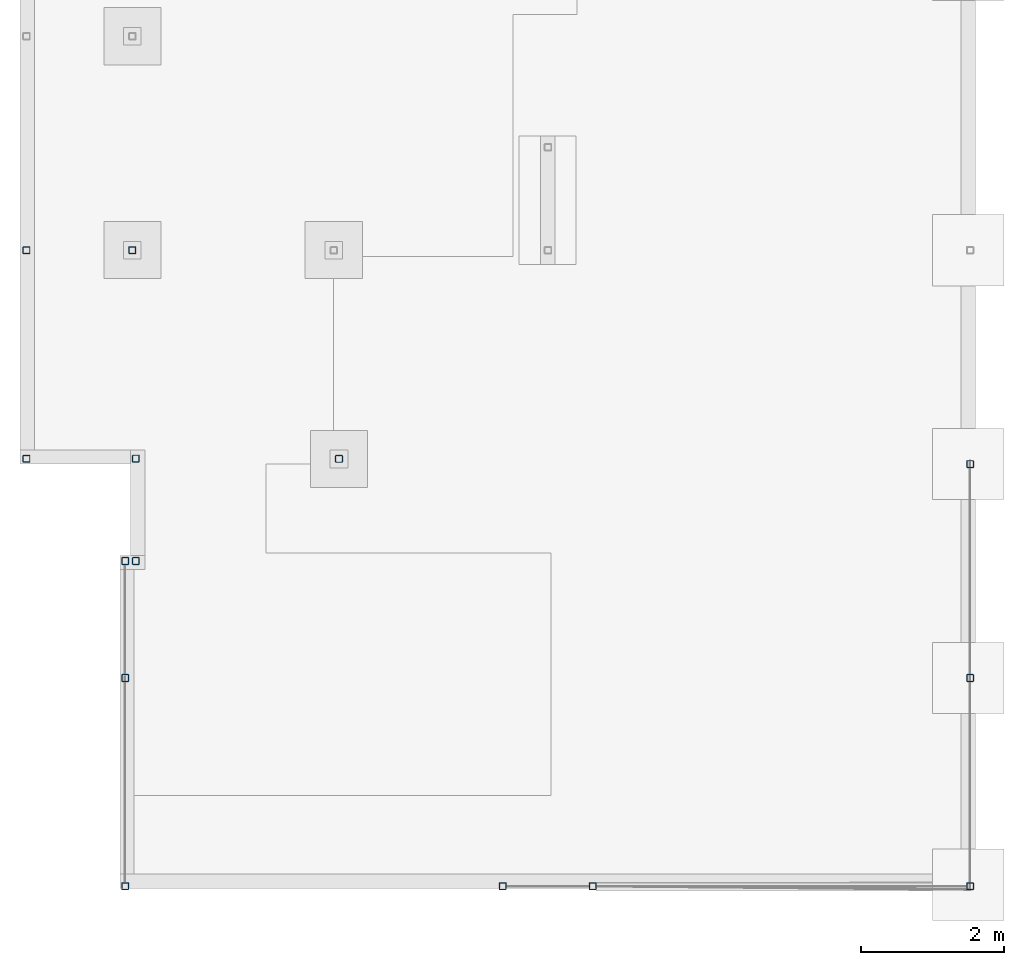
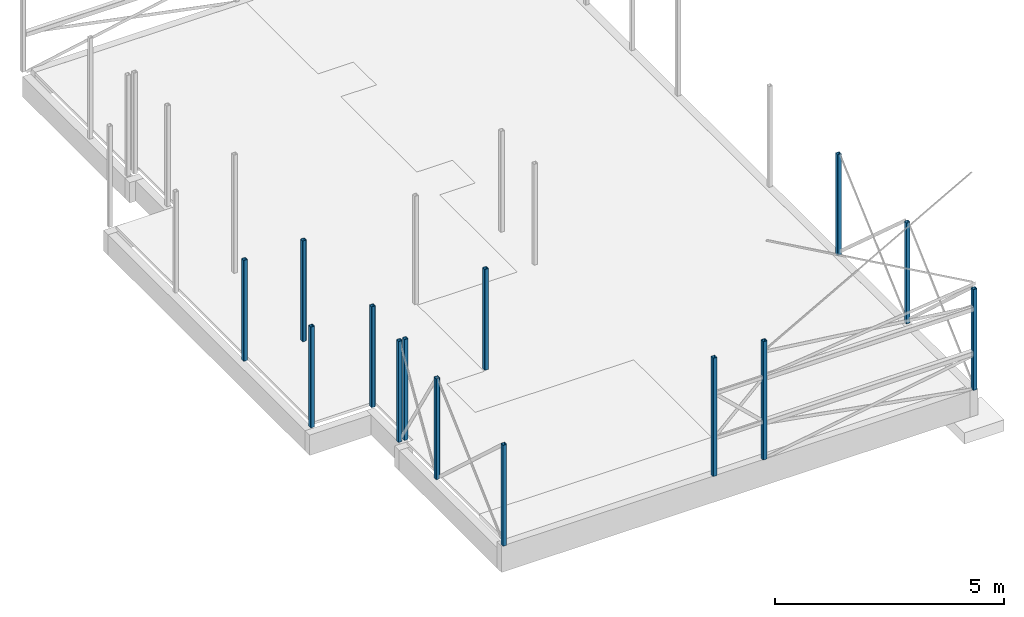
# One storey, part 1 of 5: 14 columns.
"""IFC2X3 building model written with IfcOpenShell, lengths in millimetres."""

from ifc_helpers import new_model, entity, si_unit, converted_unit, derived_unit, direction, frame, frame_2d, origin, place, context, subcontext, project, spatial, polyline, circle_curve, parameter, trimmed, segment, composite_curve, outline, extrude, source, transform, mapped, material, type_object, type_shapes, element, save


model = new_model("IFC2X3")

# Units and contexts
model_context = context("Model", 3, precision=0.01, world=origin(), true_north=direction((6.12303176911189e-17, 1.0)))
body_context = subcontext(model_context, "Body", "Model", "MODEL_VIEW")
ifc_project = project(units=[si_unit("LENGTHUNIT", "METRE", prefix="MILLI"), si_unit("AREAUNIT", "SQUARE_METRE"), si_unit("VOLUMEUNIT", "CUBIC_METRE"), converted_unit("PLANEANGLEUNIT", "DEGREE", entity("IfcRatioMeasure", 0.0174532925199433), si_unit("PLANEANGLEUNIT", "RADIAN"), dimensions=[0, 0, 0, 0, 0, 0, 0]), si_unit("MASSUNIT", "GRAM", prefix="KILO"), derived_unit("MASSDENSITYUNIT", [(si_unit("MASSUNIT", "GRAM", prefix="KILO"), 1), (si_unit("LENGTHUNIT", "METRE"), -3)]), si_unit("TIMEUNIT", "SECOND"), si_unit("FREQUENCYUNIT", "HERTZ"), si_unit("THERMODYNAMICTEMPERATUREUNIT", "DEGREE_CELSIUS"), derived_unit("THERMALTRANSMITTANCEUNIT", [(si_unit("MASSUNIT", "GRAM", prefix="KILO"), 1), (si_unit("THERMODYNAMICTEMPERATUREUNIT", "KELVIN"), -1), (si_unit("TIMEUNIT", "SECOND"), -3)]), derived_unit("VOLUMETRICFLOWRATEUNIT", [(si_unit("LENGTHUNIT", "METRE"), 3), (si_unit("TIMEUNIT", "SECOND"), -1)]), si_unit("ELECTRICCURRENTUNIT", "AMPERE"), si_unit("ELECTRICVOLTAGEUNIT", "VOLT"), si_unit("POWERUNIT", "WATT"), si_unit("FORCEUNIT", "NEWTON", prefix="KILO"), si_unit("ILLUMINANCEUNIT", "LUX"), si_unit("LUMINOUSFLUXUNIT", "LUMEN"), si_unit("LUMINOUSINTENSITYUNIT", "CANDELA"), derived_unit("USERDEFINED", [(si_unit("MASSUNIT", "GRAM", prefix="KILO"), -1), (si_unit("LENGTHUNIT", "METRE"), -2), (si_unit("TIMEUNIT", "SECOND"), 3), (si_unit("LUMINOUSFLUXUNIT", "LUMEN"), 1)]), derived_unit("LINEARVELOCITYUNIT", [(si_unit("LENGTHUNIT", "METRE"), 1), (si_unit("TIMEUNIT", "SECOND"), -1)]), si_unit("PRESSUREUNIT", "PASCAL"), derived_unit("USERDEFINED", [(si_unit("LENGTHUNIT", "METRE"), -2), (si_unit("MASSUNIT", "GRAM", prefix="KILO"), 1), (si_unit("TIMEUNIT", "SECOND"), -2)])], contexts=[model_context])

# Site, building, storey
site_placement = place(None, frame((0.0, 0.0, 101000.0)))
site = spatial("IfcSite", under=ifc_project, at=site_placement, Name="Default", CompositionType="ELEMENT")
building_placement = place(site_placement, origin())
building = spatial("IfcBuilding", under=site, at=building_placement, CompositionType="ELEMENT")
storey_placement = place(building_placement, origin())
storey = spatial("IfcBuildingStorey", under=building, at=storey_placement, Name="01", CompositionType="ELEMENT", Elevation=8.9295595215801e-10)

# Columns
ifc_material = material(Name="S355")
column_type_1 = type_object("IfcColumnType", Name="HUP 100x100x6.3", PredefinedType="COLUMN", material=ifc_material)
shared_shape_1 = source(origin(), body_context, "Body", "SweptSolid", [
    extrude(outline(composite_curve([segment(polyline([(-37.4000000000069, -50.0), (37.3999999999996, -50.0)]), True, "CONTINUOUS"), segment(trimmed(circle_curve(frame_2d((37.3999999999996, -37.3999999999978), x_axis=(-1.0, 0.0)), 12.6000000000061), [parameter(90.0000000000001)], [parameter(180.0)], True, "PARAMETER"), True, "CONTINUOUS"), segment(polyline([(50.0, -37.4000000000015), (50.0, 37.3999999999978)]), True, "CONTINUOUS"), segment(trimmed(circle_curve(frame_2d((37.4000000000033, 37.3999999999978), x_axis=(-1.0, 0.0)), 12.6000000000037), [parameter(180.0)], [parameter(270.0)], True, "PARAMETER"), True, "CONTINUOUS"), segment(polyline([(37.4000000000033, 50.0), (-37.4000000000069, 50.0)]), True, "CONTINUOUS"), segment(trimmed(circle_curve(frame_2d((-37.4000000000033, 37.4000000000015), x_axis=(-1.0, 0.0)), 12.6000000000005), [parameter(270.0)], [parameter(360.0)], True, "PARAMETER"), True, "CONTINUOUS"), segment(polyline([(-50.0, 37.3999999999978), (-50.0, -37.4000000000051)]), True, "CONTINUOUS"), segment(trimmed(circle_curve(frame_2d((-37.4000000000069, -37.4000000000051), x_axis=(-1.0, 0.0)), 12.5999999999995), [parameter(360.0)], [parameter(89.9999999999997)], True, "PARAMETER"), True, "CONTINUOUS")], self_intersect=False), holes=[composite_curve([segment(trimmed(circle_curve(frame_2d((-37.4000000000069, -37.4000000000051), x_axis=(-1.0, 0.0)), 6.2999999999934), [parameter(0.0)], [parameter(90.0)], True, "PARAMETER"), False, "CONTINUOUS"), segment(polyline([(-43.7000000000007, -37.4000000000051), (-43.7000000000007, 37.4000000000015)]), True, "CONTINUOUS"), segment(trimmed(circle_curve(frame_2d((-37.4000000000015, 37.4000000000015), x_axis=(-1.0, 0.0)), 6.29999999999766), [parameter(270.0)], [parameter(360.0)], True, "PARAMETER"), False, "CONTINUOUS"), segment(polyline([(-37.4000000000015, 43.6999999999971), (37.3999999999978, 43.6999999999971)]), True, "CONTINUOUS"), segment(trimmed(circle_curve(frame_2d((37.3999999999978, 37.3999999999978), x_axis=(-1.0, 0.0)), 6.30000000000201), [parameter(180.0)], [parameter(270.0)], True, "PARAMETER"), False, "CONTINUOUS"), segment(polyline([(43.7000000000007, 37.3999999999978), (43.7000000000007, -37.4000000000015)]), True, "CONTINUOUS"), segment(trimmed(circle_curve(frame_2d((37.3999999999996, -37.3999999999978), x_axis=(-1.0, 0.0)), 6.30000000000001), [parameter(90.0000000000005)], [parameter(180.0)], True, "PARAMETER"), False, "CONTINUOUS"), segment(polyline([(37.3999999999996, -43.7000000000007), (-37.4000000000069, -43.7000000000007)]), True, "CONTINUOUS")], self_intersect=False)]), frame((11261.2644969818, 23497.9507529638, 0.0), z_axis=(0.0, 0.0, 1.0), x_axis=(-1.0, 0.0, 0.0)), (0.0, 0.0, 1.0), 2684.99999999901),
])
type_shapes(column_type_1, [shared_shape_1])
column_1_placement = place(storey_placement, origin())
element("IfcColumn", 1, at=column_1_placement, inside=storey, type_object=column_type_1, material=ifc_material, Name="Søyle HUP:HUP 100x100x6.3", ObjectType="HUP 100x100x6.3", context=body_context, shape_type="MappedRepresentation", body=[
    mapped(shared_shape_1, transform((0.0, 0.0, 0.0), scale=1.0)),
])
column_type_2 = type_object("IfcColumnType", Name="HUP 100x100x6.3", PredefinedType="COLUMN", material=ifc_material)
shared_shape_2 = source(origin(), body_context, "Body", "SweptSolid", [
    extrude(outline(composite_curve([segment(polyline([(-37.4000000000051, -50.0), (37.4000000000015, -50.0)]), True, "CONTINUOUS"), segment(trimmed(circle_curve(frame_2d((37.4000000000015, -37.3999999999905), x_axis=(-1.0, 0.0)), 12.6000000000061), [parameter(90.0000000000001)], [parameter(180.0)], True, "PARAMETER"), True, "CONTINUOUS"), segment(polyline([(50.0, -37.3999999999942), (50.0, 37.4000000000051)]), True, "CONTINUOUS"), segment(trimmed(circle_curve(frame_2d((37.4000000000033, 37.4000000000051), x_axis=(-1.0, 0.0)), 12.6000000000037), [parameter(180.0)], [parameter(270.0)], True, "PARAMETER"), True, "CONTINUOUS"), segment(polyline([(37.4000000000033, 50.0), (-37.4000000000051, 50.0)]), True, "CONTINUOUS"), segment(trimmed(circle_curve(frame_2d((-37.4000000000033, 37.4000000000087), x_axis=(-1.0, 0.0)), 12.6000000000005), [parameter(270.0)], [parameter(360.0)], True, "PARAMETER"), True, "CONTINUOUS"), segment(polyline([(-50.0, 37.4000000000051), (-50.0, -37.3999999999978)]), True, "CONTINUOUS"), segment(trimmed(circle_curve(frame_2d((-37.4000000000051, -37.3999999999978), x_axis=(-1.0, 0.0)), 12.5999999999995), [parameter(360.0)], [parameter(89.9999999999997)], True, "PARAMETER"), True, "CONTINUOUS")], self_intersect=False), holes=[composite_curve([segment(trimmed(circle_curve(frame_2d((-37.4000000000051, -37.3999999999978), x_axis=(-1.0, 0.0)), 6.2999999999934), [parameter(0.0)], [parameter(90.0)], True, "PARAMETER"), False, "CONTINUOUS"), segment(polyline([(-43.7000000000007, -37.3999999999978), (-43.7000000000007, 37.4000000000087)]), True, "CONTINUOUS"), segment(trimmed(circle_curve(frame_2d((-37.4000000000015, 37.4000000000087), x_axis=(-1.0, 0.0)), 6.29999999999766), [parameter(270.0)], [parameter(360.0)], True, "PARAMETER"), False, "CONTINUOUS"), segment(polyline([(-37.4000000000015, 43.7000000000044), (37.3999999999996, 43.7000000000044)]), True, "CONTINUOUS"), segment(trimmed(circle_curve(frame_2d((37.3999999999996, 37.4000000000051), x_axis=(-1.0, 0.0)), 6.30000000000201), [parameter(180.0)], [parameter(270.0)], True, "PARAMETER"), False, "CONTINUOUS"), segment(polyline([(43.7000000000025, 37.4000000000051), (43.7000000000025, -37.3999999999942)]), True, "CONTINUOUS"), segment(trimmed(circle_curve(frame_2d((37.4000000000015, -37.3999999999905), x_axis=(-1.0, 0.0)), 6.30000000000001), [parameter(90.0000000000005)], [parameter(180.0)], True, "PARAMETER"), False, "CONTINUOUS"), segment(polyline([(37.4000000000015, -43.6999999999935), (-37.4000000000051, -43.6999999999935)]), True, "CONTINUOUS")], self_intersect=False)]), frame((11261.2644969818, 26417.9507529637, 0.0), z_axis=(0.0, 0.0, 1.0), x_axis=(-1.0, 0.0, 0.0)), (0.0, 0.0, 1.0), 2684.99999999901),
])
type_shapes(column_type_2, [shared_shape_2])
column_2_placement = place(storey_placement, origin())
element("IfcColumn", 2, at=column_2_placement, inside=storey, type_object=column_type_2, material=ifc_material, Name="Søyle HUP:HUP 100x100x6.3", ObjectType="HUP 100x100x6.3", context=body_context, shape_type="MappedRepresentation", body=[
    mapped(shared_shape_2, transform((0.0, 0.0, 0.0), scale=1.0)),
])
column_type_3 = type_object("IfcColumnType", Name="HUP 100x100x6.3", PredefinedType="COLUMN", material=ifc_material)
shared_shape_3 = source(origin(), body_context, "Body", "SweptSolid", [
    extrude(outline(composite_curve([segment(polyline([(-37.4000000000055, -50.0), (37.4000000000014, -50.0)]), True, "CONTINUOUS"), segment(trimmed(circle_curve(frame_2d((37.4000000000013, -37.3999999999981), x_axis=(-1.0, 0.0)), 12.6000000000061), [parameter(90.0000000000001)], [parameter(180.0)], True, "PARAMETER"), True, "CONTINUOUS"), segment(polyline([(50.0, -37.3999999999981), (50.0, 37.4000000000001)]), True, "CONTINUOUS"), segment(trimmed(circle_curve(frame_2d((37.4000000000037, 37.4000000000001), x_axis=(-1.0, 0.0)), 12.6000000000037), [parameter(180.0)], [parameter(270.0)], True, "PARAMETER"), True, "CONTINUOUS"), segment(polyline([(37.4000000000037, 50.0), (-37.4000000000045, 50.0)]), True, "CONTINUOUS"), segment(trimmed(circle_curve(frame_2d((-37.4000000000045, 37.4000000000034), x_axis=(-1.0, 0.0)), 12.6000000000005), [parameter(270.0)], [parameter(360.0)], True, "PARAMETER"), True, "CONTINUOUS"), segment(polyline([(-50.0, 37.4000000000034), (-50.0, -37.4000000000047)]), True, "CONTINUOUS"), segment(trimmed(circle_curve(frame_2d((-37.4000000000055, -37.4000000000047), x_axis=(-1.0, 0.0)), 12.5999999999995), [parameter(360.0)], [parameter(89.9999999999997)], True, "PARAMETER"), True, "CONTINUOUS")], self_intersect=False), holes=[composite_curve([segment(trimmed(circle_curve(frame_2d((-37.4000000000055, -37.4000000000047), x_axis=(-1.0, 0.0)), 6.2999999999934), [parameter(0.0)], [parameter(90.0)], True, "PARAMETER"), False, "CONTINUOUS"), segment(polyline([(-43.6999999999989, -37.4000000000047), (-43.6999999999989, 37.4000000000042)]), True, "CONTINUOUS"), segment(trimmed(circle_curve(frame_2d((-37.4000000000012, 37.4000000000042), x_axis=(-1.0, 0.0)), 6.29999999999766), [parameter(270.0)], [parameter(360.0)], True, "PARAMETER"), False, "CONTINUOUS"), segment(polyline([(-37.4000000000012, 43.7000000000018), (37.3999999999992, 43.7000000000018)]), True, "CONTINUOUS"), segment(trimmed(circle_curve(frame_2d((37.3999999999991, 37.3999999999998), x_axis=(-1.0, 0.0)), 6.30000000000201), [parameter(180.0)], [parameter(270.0)], True, "PARAMETER"), False, "CONTINUOUS"), segment(polyline([(43.7000000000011, 37.3999999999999), (43.7000000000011, -37.3999999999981)]), True, "CONTINUOUS"), segment(trimmed(circle_curve(frame_2d((37.4000000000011, -37.3999999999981), x_axis=(-1.0, 0.0)), 6.30000000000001), [parameter(90.0000000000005)], [parameter(180.0)], True, "PARAMETER"), False, "CONTINUOUS"), segment(polyline([(37.4000000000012, -43.6999999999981), (-37.4000000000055, -43.6999999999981)]), True, "CONTINUOUS")], self_intersect=False)]), frame((0.0, 0.0, 0.0), z_axis=(0.0, 0.0, 1.0), x_axis=(-1.0, 0.0, 0.0)), (0.0, 0.0, 1.0), 2684.99999999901),
])
type_shapes(column_type_3, [shared_shape_3])
for number, where, name in (
    (3, (11261.2644969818, 28058.4336358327, 0.0), "Søyle HUP:HUP 100x100x6.3"),
    (4, (11411.2644969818, 28058.4336358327, 0.0), "Søyle HUP:HUP 100x100x6.3"),
    (5, (11411.2644969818, 29494.9249129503, 0.0), "Søyle HUP:HUP 100x100x6.3"),
    (6, (23111.2644969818, 29417.9507529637, 0.0), "Søyle HUP:HUP 100x100x6.3"),
    (7, (23111.2644969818, 26417.9507529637, 0.0), "Søyle HUP:HUP 100x100x6.3"),
    (8, (23111.2644969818, 23497.9507529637, 0.0), "Søyle HUP:HUP 100x100x6.3"),
    (9, (14260.1002454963, 29490.299422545, 0.0), "Søyle HUP:HUP 100x100x6.3"),
    (10, (11360.9797660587, 32417.9507530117, 0.0), "Søyle HUP:HUP 100x100x6.3"),
    (11, (9875.97976606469, 32417.9507530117, 0.0), "Søyle HUP:HUP 100x100x6.3"),
    (12, (9875.97976606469, 29491.514019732, 0.0), "Søyle HUP:HUP 100x100x6.3"),
):
    element("IfcColumn", number, at=place(storey_placement, frame(where)), inside=storey, type_object=column_type_3, material=ifc_material, Name=name, ObjectType="HUP 100x100x6.3", context=body_context, shape_type="MappedRepresentation", body=[
        mapped(shared_shape_3, transform((0.0, 0.0, 0.0), scale=1.0)),
    ])
column_type_4 = type_object("IfcColumnType", Name="HUP 100x100x6.3", PredefinedType="COLUMN", material=ifc_material)
shared_shape_4 = source(origin(), body_context, "Body", "SweptSolid", [
    extrude(outline(composite_curve([segment(polyline([(-37.4000000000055, -50.0), (37.4000000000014, -50.0)]), True, "CONTINUOUS"), segment(trimmed(circle_curve(frame_2d((37.4000000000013, -37.3999999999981), x_axis=(-1.0, 0.0)), 12.6000000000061), [parameter(90.0000000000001)], [parameter(180.0)], True, "PARAMETER"), True, "CONTINUOUS"), segment(polyline([(50.0, -37.3999999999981), (50.0, 37.4000000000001)]), True, "CONTINUOUS"), segment(trimmed(circle_curve(frame_2d((37.4000000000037, 37.4000000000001), x_axis=(-1.0, 0.0)), 12.6000000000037), [parameter(180.0)], [parameter(270.0)], True, "PARAMETER"), True, "CONTINUOUS"), segment(polyline([(37.4000000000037, 50.0), (-37.4000000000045, 50.0)]), True, "CONTINUOUS"), segment(trimmed(circle_curve(frame_2d((-37.4000000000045, 37.4000000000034), x_axis=(-1.0, 0.0)), 12.6000000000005), [parameter(270.0)], [parameter(360.0)], True, "PARAMETER"), True, "CONTINUOUS"), segment(polyline([(-50.0, 37.4000000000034), (-50.0, -37.4000000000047)]), True, "CONTINUOUS"), segment(trimmed(circle_curve(frame_2d((-37.4000000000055, -37.4000000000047), x_axis=(-1.0, 0.0)), 12.5999999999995), [parameter(360.0)], [parameter(89.9999999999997)], True, "PARAMETER"), True, "CONTINUOUS")], self_intersect=False), holes=[composite_curve([segment(trimmed(circle_curve(frame_2d((-37.4000000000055, -37.4000000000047), x_axis=(-1.0, 0.0)), 6.2999999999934), [parameter(0.0)], [parameter(90.0)], True, "PARAMETER"), False, "CONTINUOUS"), segment(polyline([(-43.6999999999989, -37.4000000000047), (-43.6999999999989, 37.4000000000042)]), True, "CONTINUOUS"), segment(trimmed(circle_curve(frame_2d((-37.4000000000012, 37.4000000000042), x_axis=(-1.0, 0.0)), 6.29999999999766), [parameter(270.0)], [parameter(360.0)], True, "PARAMETER"), False, "CONTINUOUS"), segment(polyline([(-37.4000000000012, 43.7000000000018), (37.3999999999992, 43.7000000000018)]), True, "CONTINUOUS"), segment(trimmed(circle_curve(frame_2d((37.3999999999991, 37.3999999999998), x_axis=(-1.0, 0.0)), 6.30000000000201), [parameter(180.0)], [parameter(270.0)], True, "PARAMETER"), False, "CONTINUOUS"), segment(polyline([(43.7000000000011, 37.3999999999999), (43.7000000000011, -37.3999999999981)]), True, "CONTINUOUS"), segment(trimmed(circle_curve(frame_2d((37.4000000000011, -37.3999999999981), x_axis=(-1.0, 0.0)), 6.30000000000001), [parameter(90.0000000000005)], [parameter(180.0)], True, "PARAMETER"), False, "CONTINUOUS"), segment(polyline([(37.4000000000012, -43.6999999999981), (-37.4000000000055, -43.6999999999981)]), True, "CONTINUOUS")], self_intersect=False)]), frame((0.0, 0.0, 0.0), z_axis=(0.0, 0.0, 1.0), x_axis=(-1.0, 0.0, 0.0)), (0.0, 0.0, 1.0), 3149.99999999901),
])
type_shapes(column_type_4, [shared_shape_4])
for number, where, name in (
    (13, (16555.2902080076, 23497.9507529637, 0.0), "Søyle HUP:HUP 100x100x6.3"),
    (14, (17817.2389636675, 23497.9507529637, 0.0), "Søyle HUP:HUP 100x100x6.3"),
):
    element("IfcColumn", number, at=place(storey_placement, frame(where)), inside=storey, type_object=column_type_4, material=ifc_material, Name=name, ObjectType="HUP 100x100x6.3", context=body_context, shape_type="MappedRepresentation", body=[
        mapped(shared_shape_4, transform((0.0, 0.0, 0.0), scale=1.0)),
    ])

save(model, "model.ifc")
